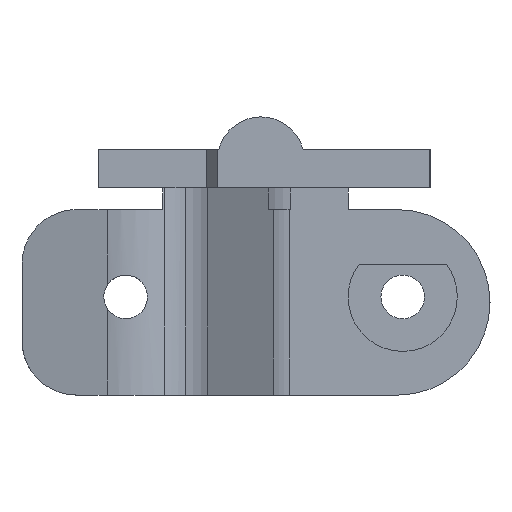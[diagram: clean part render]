
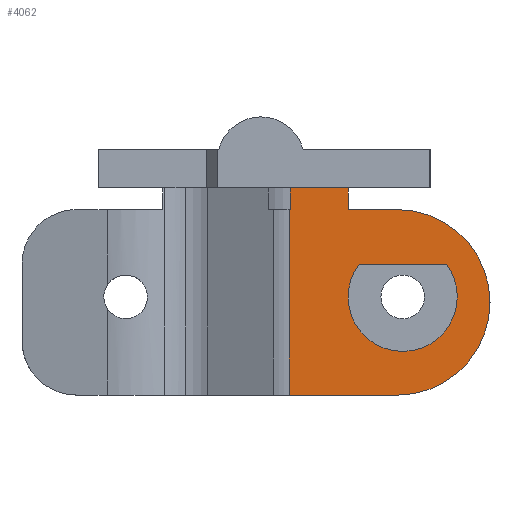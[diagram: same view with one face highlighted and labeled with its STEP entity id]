
A CAD part, left-side view. The second image highlights one B-rep face of the part: STEP entity #4062.
In plain terms, the highlighted planar face has unit normal (-1, 0, 0).
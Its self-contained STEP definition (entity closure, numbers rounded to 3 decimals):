
#26 = VERTEX_POINT ( 'NONE', #331 ) ;
#112 = VERTEX_POINT ( 'NONE', #545 ) ;
#331 = CARTESIAN_POINT ( 'NONE',  ( 172.7, 98.915, -1.3 ) ) ;
#545 = CARTESIAN_POINT ( 'NONE',  ( 172.7, 99.016, -1.3 ) ) ;
#1156 = CARTESIAN_POINT ( 'NONE',  ( 172.7, 80.6, -9.8 ) ) ;
#1157 = CARTESIAN_POINT ( 'NONE',  ( 172.7, 88.6, -9.3 ) ) ;
#1159 = CARTESIAN_POINT ( 'NONE',  ( 172.7, 83.6, -9.3 ) ) ;
#1167 = DIRECTION ( 'NONE',  ( 0., 1., 0. ) ) ;
#1168 = DIRECTION ( 'NONE',  ( -1., 0., 0. ) ) ;
#1180 = CIRCLE ( 'NONE', #1186, 5. ) ;
#1184 = CARTESIAN_POINT ( 'NONE',  ( 172.7, 84.6, -6.3 ) ) ;
#1186 = AXIS2_PLACEMENT_3D ( 'NONE', #1157, #1168, #1167 ) ;
#1236 = AXIS2_PLACEMENT_3D ( 'NONE', #1332, #1331, #1330 ) ;
#1282 = CIRCLE ( 'NONE', #1236, 8.5 ) ;
#1330 = DIRECTION ( 'NONE',  ( 0., -1., 0. ) ) ;
#1331 = DIRECTION ( 'NONE',  ( 1., 0., 0. ) ) ;
#1332 = CARTESIAN_POINT ( 'NONE',  ( 172.7, 89.1, -9.8 ) ) ;
#1336 = LINE ( 'NONE', #1395, #1394 ) ;
#1344 = DIRECTION ( 'NONE',  ( 0., 1., 0. ) ) ;
#1345 = VECTOR ( 'NONE', #1344, 1000. ) ;
#1346 = CARTESIAN_POINT ( 'NONE',  ( 172.7, 80.6, -6.3 ) ) ;
#1347 = LINE ( 'NONE', #1346, #1345 ) ;
#1348 = CARTESIAN_POINT ( 'NONE',  ( 172.7, 93.6, -1.3 ) ) ;
#1352 = CARTESIAN_POINT ( 'NONE',  ( 172.7, 92.6, -6.3 ) ) ;
#1365 = DIRECTION ( 'NONE',  ( 0., 1., 0. ) ) ;
#1366 = VECTOR ( 'NONE', #1365, 1000. ) ;
#1367 = CARTESIAN_POINT ( 'NONE',  ( 172.7, 80.6, -18.3 ) ) ;
#1371 = LINE ( 'NONE', #1367, #1366 ) ;
#1375 = CARTESIAN_POINT ( 'NONE',  ( 172.7, 88.6, -9.3 ) ) ;
#1393 = DIRECTION ( 'NONE',  ( 0., -1., 0. ) ) ;
#1394 = VECTOR ( 'NONE', #1393, 1000. ) ;
#1395 = CARTESIAN_POINT ( 'NONE',  ( 172.7, 80.6, -1.3 ) ) ;
#1411 = CARTESIAN_POINT ( 'NONE',  ( 172.7, 89.1, -1.3 ) ) ;
#1415 = DIRECTION ( 'NONE',  ( 0., 1., 0. ) ) ;
#1416 = DIRECTION ( 'NONE',  ( -1., 0., 0. ) ) ;
#1418 = AXIS2_PLACEMENT_3D ( 'NONE', #1375, #1416, #1415 ) ;
#1428 = CIRCLE ( 'NONE', #1418, 5. ) ;
#2410 = CARTESIAN_POINT ( 'NONE',  ( 172.7, 98.915, 0.7 ) ) ;
#2423 = CARTESIAN_POINT ( 'NONE',  ( 172.7, 93.6, 0.7 ) ) ;
#2447 = PLANE ( 'NONE',  #2484 ) ;
#2459 = DIRECTION ( 'NONE',  ( 0., 0., 1. ) ) ;
#2460 = VECTOR ( 'NONE', #2459, 1000. ) ;
#2463 = LINE ( 'NONE', #2487, #2486 ) ;
#2464 = CARTESIAN_POINT ( 'NONE',  ( 172.7, 98.915, 0.7 ) ) ;
#2465 = LINE ( 'NONE', #2464, #2460 ) ;
#2482 = LINE ( 'NONE', #2521, #2520 ) ;
#2484 = AXIS2_PLACEMENT_3D ( 'NONE', #2529, #2528, #2527 ) ;
#2485 = DIRECTION ( 'NONE',  ( 0., 0., -1. ) ) ;
#2486 = VECTOR ( 'NONE', #2485, 1000. ) ;
#2487 = CARTESIAN_POINT ( 'NONE',  ( 172.7, 93.6, -18.3 ) ) ;
#2490 = FACE_BOUND ( 'NONE', #4058, .T. ) ;
#2496 = FACE_OUTER_BOUND ( 'NONE', #4153, .T. ) ;
#2519 = DIRECTION ( 'NONE',  ( 0., 1., 0. ) ) ;
#2520 = VECTOR ( 'NONE', #2519, 1000. ) ;
#2521 = CARTESIAN_POINT ( 'NONE',  ( 172.7, 115.5, 0.7 ) ) ;
#2527 = DIRECTION ( 'NONE',  ( 0., 1., 0. ) ) ;
#2528 = DIRECTION ( 'NONE',  ( 1., 0., 0. ) ) ;
#2529 = CARTESIAN_POINT ( 'NONE',  ( 172.7, 80.6, -18.3 ) ) ;
#2639 = VERTEX_POINT ( 'NONE', #1156 ) ;
#2641 = VERTEX_POINT ( 'NONE', #1184 ) ;
#2644 = VERTEX_POINT ( 'NONE', #1159 ) ;
#2647 = EDGE_CURVE ( 'NONE', #2644, #2641, #1180, .T. ) ;
#3557 = EDGE_CURVE ( 'NONE', #3606, #2639, #1282, .T. ) ;
#3561 = EDGE_CURVE ( 'NONE', #4974, #4403, #1371, .T. ) ;
#3576 = EDGE_CURVE ( 'NONE', #2641, #3578, #1347, .T. ) ;
#3578 = VERTEX_POINT ( 'NONE', #1352 ) ;
#3579 = EDGE_CURVE ( 'NONE', #3582, #3606, #1336, .T. ) ;
#3582 = VERTEX_POINT ( 'NONE', #1348 ) ;
#3598 = EDGE_CURVE ( 'NONE', #3578, #4945, #1428, .T. ) ;
#3606 = VERTEX_POINT ( 'NONE', #1411 ) ;
#4008 = ORIENTED_EDGE ( 'NONE', *, *, #4061, .F. ) ;
#4010 = ORIENTED_EDGE ( 'NONE', *, *, #3598, .F. ) ;
#4015 = ORIENTED_EDGE ( 'NONE', *, *, #4033, .F. ) ;
#4021 = VERTEX_POINT ( 'NONE', #2423 ) ;
#4022 = ORIENTED_EDGE ( 'NONE', *, *, #2647, .F. ) ;
#4027 = VERTEX_POINT ( 'NONE', #2410 ) ;
#4029 = ORIENTED_EDGE ( 'NONE', *, *, #3557, .F. ) ;
#4032 = ORIENTED_EDGE ( 'NONE', *, *, #4491, .F. ) ;
#4033 = EDGE_CURVE ( 'NONE', #26, #4027, #2465, .T. ) ;
#4035 = ORIENTED_EDGE ( 'NONE', *, *, #4953, .F. ) ;
#4048 = ORIENTED_EDGE ( 'NONE', *, *, #3576, .F. ) ;
#4058 = EDGE_LOOP ( 'NONE', ( #4048, #4022, #4144, #4010 ) ) ;
#4061 = EDGE_CURVE ( 'NONE', #4021, #3582, #2463, .T. ) ;
#4062 = ADVANCED_FACE ( 'NONE', ( #2490, #2496 ), #2447, .F. ) ;
#4065 = EDGE_CURVE ( 'NONE', #4021, #4027, #2482, .T. ) ;
#4086 = ORIENTED_EDGE ( 'NONE', *, *, #4410, .F. ) ;
#4123 = ORIENTED_EDGE ( 'NONE', *, *, #3561, .F. ) ;
#4125 = ORIENTED_EDGE ( 'NONE', *, *, #3579, .F. ) ;
#4144 = ORIENTED_EDGE ( 'NONE', *, *, #4773, .F. ) ;
#4153 = EDGE_LOOP ( 'NONE', ( #4008, #4165, #4015, #4032, #4086, #4123, #4035, #4029, #4125 ) ) ;
#4165 = ORIENTED_EDGE ( 'NONE', *, *, #4065, .T. ) ;
#4403 = VERTEX_POINT ( 'NONE', #4533 ) ;
#4410 = EDGE_CURVE ( 'NONE', #4403, #112, #4568, .T. ) ;
#4491 = EDGE_CURVE ( 'NONE', #112, #26, #4761, .T. ) ;
#4533 = CARTESIAN_POINT ( 'NONE',  ( 172.7, 99.016, -18.3 ) ) ;
#4563 = DIRECTION ( 'NONE',  ( 0., 0., 1. ) ) ;
#4564 = VECTOR ( 'NONE', #4563, 1000. ) ;
#4565 = CARTESIAN_POINT ( 'NONE',  ( 172.7, 99.016, -18.3 ) ) ;
#4568 = LINE ( 'NONE', #4565, #4564 ) ;
#4748 = DIRECTION ( 'NONE',  ( 0., -1., 0. ) ) ;
#4749 = CARTESIAN_POINT ( 'NONE',  ( 172.7, 93.6, -9.3 ) ) ;
#4753 = VECTOR ( 'NONE', #4748, 1000. ) ;
#4760 = CARTESIAN_POINT ( 'NONE',  ( 172.7, 80.6, -1.3 ) ) ;
#4761 = LINE ( 'NONE', #4760, #4753 ) ;
#4768 = CIRCLE ( 'NONE', #4824, 5. ) ;
#4773 = EDGE_CURVE ( 'NONE', #4945, #2644, #4768, .T. ) ;
#4801 = AXIS2_PLACEMENT_3D ( 'NONE', #4837, #4836, #4835 ) ;
#4809 = CIRCLE ( 'NONE', #4801, 8.5 ) ;
#4821 = DIRECTION ( 'NONE',  ( 0., 1., 0. ) ) ;
#4822 = DIRECTION ( 'NONE',  ( -1., 0., 0. ) ) ;
#4823 = CARTESIAN_POINT ( 'NONE',  ( 172.7, 88.6, -9.3 ) ) ;
#4824 = AXIS2_PLACEMENT_3D ( 'NONE', #4823, #4822, #4821 ) ;
#4835 = DIRECTION ( 'NONE',  ( 0., -1., 0. ) ) ;
#4836 = DIRECTION ( 'NONE',  ( 1., 0., 0. ) ) ;
#4837 = CARTESIAN_POINT ( 'NONE',  ( 172.7, 89.1, -9.8 ) ) ;
#4863 = CARTESIAN_POINT ( 'NONE',  ( 172.7, 89.1, -18.3 ) ) ;
#4945 = VERTEX_POINT ( 'NONE', #4749 ) ;
#4953 = EDGE_CURVE ( 'NONE', #2639, #4974, #4809, .T. ) ;
#4974 = VERTEX_POINT ( 'NONE', #4863 ) ;
